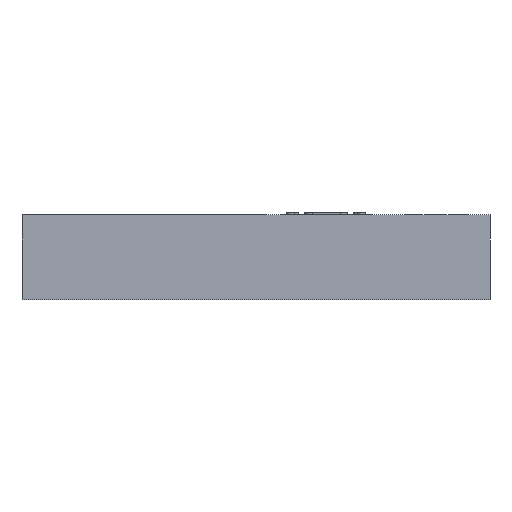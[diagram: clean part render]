
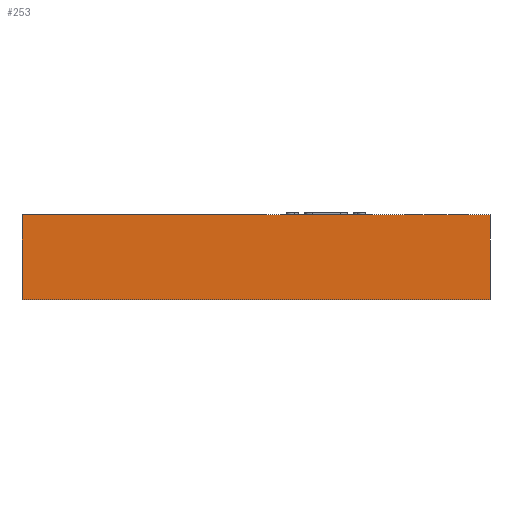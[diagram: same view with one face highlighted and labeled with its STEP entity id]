
A CAD part, left-side view. The second image highlights one B-rep face of the part: STEP entity #253.
In plain terms, the highlighted planar face has unit normal (-1, 0, 0).
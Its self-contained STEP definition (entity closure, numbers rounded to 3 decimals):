
#253 = ADVANCED_FACE( '', ( #670 ), #671, .T. );
#670 = FACE_OUTER_BOUND( '', #2755, .T. );
#671 = PLANE( '', #2756 );
#2755 = EDGE_LOOP( '', ( #4390, #4391, #4392, #4393 ) );
#2756 = AXIS2_PLACEMENT_3D( '', #4394, #4395, #4396 );
#4390 = ORIENTED_EDGE( '', *, *, #4687, .F. );
#4391 = ORIENTED_EDGE( '', *, *, #4918, .F. );
#4392 = ORIENTED_EDGE( '', *, *, #4912, .T. );
#4393 = ORIENTED_EDGE( '', *, *, #4919, .T. );
#4394 = CARTESIAN_POINT( '', ( -100., 100., -36.2 ) );
#4395 = DIRECTION( '', ( -1., 0., 0. ) );
#4396 = DIRECTION( '', ( 0., 0., 1. ) );
#4687 = EDGE_CURVE( '', #5266, #5267, #5268, .T. );
#4912 = EDGE_CURVE( '', #5600, #5601, #5602, .T. );
#4918 = EDGE_CURVE( '', #5600, #5266, #5612, .T. );
#4919 = EDGE_CURVE( '', #5601, #5267, #5613, .T. );
#5266 = VERTEX_POINT( '', #6256 );
#5267 = VERTEX_POINT( '', #6257 );
#5268 = LINE( '', #6258, #6259 );
#5600 = VERTEX_POINT( '', #7336 );
#5601 = VERTEX_POINT( '', #7337 );
#5602 = LINE( '', #7338, #7339 );
#5612 = LINE( '', #7352, #7353 );
#5613 = LINE( '', #7354, #7355 );
#6256 = CARTESIAN_POINT( '', ( -100., 100., 0. ) );
#6257 = CARTESIAN_POINT( '', ( -100., -100., 0. ) );
#6258 = CARTESIAN_POINT( '', ( -100., 100., 0. ) );
#6259 = VECTOR( '', #7687, 1000. );
#7336 = CARTESIAN_POINT( '', ( -100., 100., -36.2 ) );
#7337 = CARTESIAN_POINT( '', ( -100., -100., -36.2 ) );
#7338 = CARTESIAN_POINT( '', ( -100., 100., -36.2 ) );
#7339 = VECTOR( '', #8026, 1000. );
#7352 = CARTESIAN_POINT( '', ( -100., 100., -36.2 ) );
#7353 = VECTOR( '', #8036, 1000. );
#7354 = CARTESIAN_POINT( '', ( -100., -100., -36.2 ) );
#7355 = VECTOR( '', #8037, 1000. );
#7687 = DIRECTION( '', ( 0., -1., 0. ) );
#8026 = DIRECTION( '', ( 0., -1., 0. ) );
#8036 = DIRECTION( '', ( 0., 0., 1. ) );
#8037 = DIRECTION( '', ( 0., 0., 1. ) );
